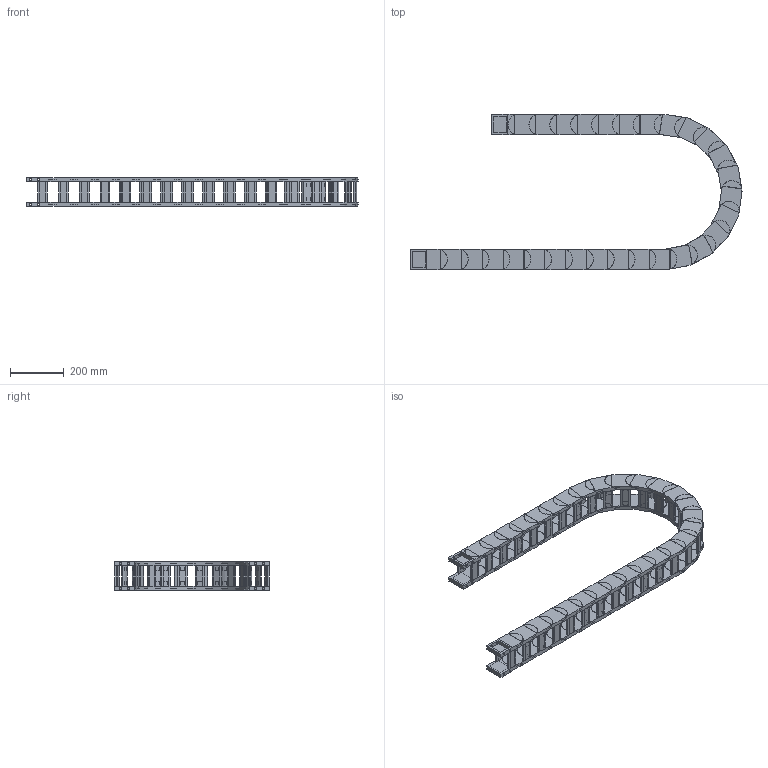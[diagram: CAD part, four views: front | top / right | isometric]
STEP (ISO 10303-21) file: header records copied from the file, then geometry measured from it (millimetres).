
FILE_DESCRIPTION((''),'2;1');
FILE_NAME('HD55-R250-ZPT_ASM','2022-06-17T19:48:01',('admin'),(''),'CREO PARAMETRIC BY PTC INC, 2021164','CREO PARAMETRIC BY PTC INC, 2021164','');
FILE_SCHEMA(('CONFIG_CONTROL_DESIGN','GEOMETRIC_VALIDATION_PROPERTIES_MIM'));
Length unit declared in the file: millimetre
Products named in the file (6): HD-55; 55-500001; HD55_ASM; H55-T1; H55-T2; HD55-R250-ZPT_ASM
Assembly tree (34 placements, depth 3):
  HD55-R250-ZPT_ASM
    HD55_ASM  x28
      HD-55
      55-500001
    H55-T1
    H55-T2
    55-500001  x2
Bounding box: 1233.09 x 575.89 x 107.3 mm (x, y, z)
Volume: 6632829.7 mm3; surface area: 2078179.5 mm2
Topology: 120 solids, 120 shells, 1982 faces, 5086 edges, 3468 vertices
Faces by surface type: plane 1640, cylinder 342
Entity records: 8831 total; most frequent: CARTESIAN_POINT 1304, DIRECTION 1266, ORIENTED_EDGE 1172, EDGE_CURVE 586, AXIS2_PLACEMENT_3D 424, VECTOR 418, LINE 418, VERTEX_POINT 396
